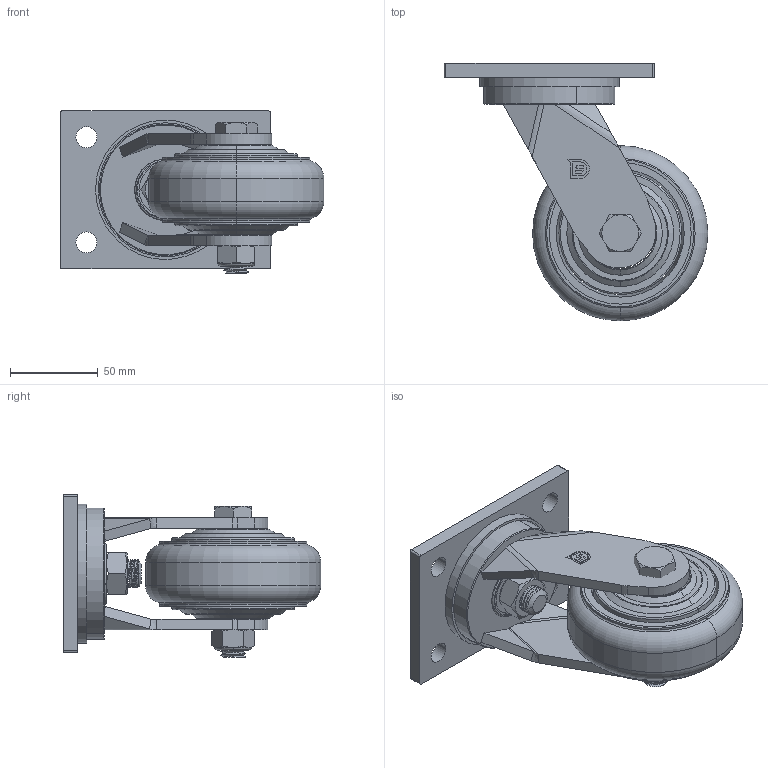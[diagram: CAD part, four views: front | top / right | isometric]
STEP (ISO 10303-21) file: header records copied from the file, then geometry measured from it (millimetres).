
FILE_DESCRIPTION((''),'2;1');
FILE_NAME('PRT0006','2025-04-21T09:44:03',('Administrator'),(''),'CREO PARAMETRIC BY PTC INC, 2022484','CREO PARAMETRIC BY PTC INC, 2022484','');
FILE_SCHEMA(('CONFIG_CONTROL_DESIGN','GEOMETRIC_VALIDATION_PROPERTIES_MIM'));
Length unit declared in the file: millimetre
Products named in the file (1): PRT0006
Bounding box: 150.5 x 147 x 92.5 mm (x, y, z)
Surface area: 85461.7 mm2 (no closed solid volume)
Topology: 0 solids, 29 shells, 210 faces, 587 edges, 409 vertices
Faces by surface type: plane 72, cylinder 64, cone 38, torus 28, bspline 8
Entity records: 10220 total; most frequent: CARTESIAN_POINT 3441, DIRECTION 1091, ORIENTED_EDGE 967, EDGE_CURVE 587, AXIS2_PLACEMENT_3D 428, VERTEX_POINT 409, EDGE_LOOP 243, VECTOR 235
